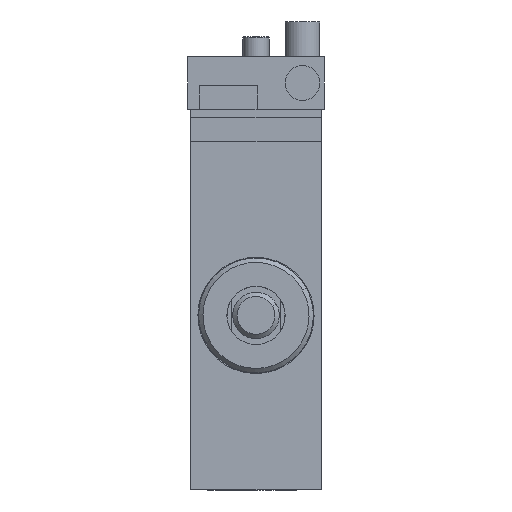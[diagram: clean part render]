
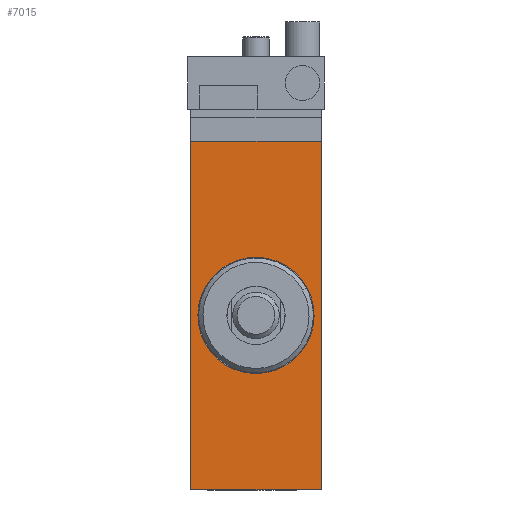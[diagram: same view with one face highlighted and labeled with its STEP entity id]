
A CAD part, left-side view. The second image highlights one B-rep face of the part: STEP entity #7015.
In plain terms, the highlighted planar face has unit normal (-1, 0, 0).
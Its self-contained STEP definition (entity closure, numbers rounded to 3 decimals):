
#7002=AXIS2_PLACEMENT_3D('Plane Axis2P3D',#6999,#7000,#7001) ;
#6885=CARTESIAN_POINT('Line Origine',(-267.,0.,60.)) ;
#6889=CARTESIAN_POINT('Vertex',(-267.,22.5,60.)) ;
#6891=CARTESIAN_POINT('Vertex',(-267.,-22.5,60.)) ;
#6925=CARTESIAN_POINT('Line Origine',(-267.,-22.5,0.)) ;
#6929=CARTESIAN_POINT('Vertex',(-267.,-22.5,-60.)) ;
#6956=CARTESIAN_POINT('Line Origine',(-267.,22.5,0.)) ;
#6960=CARTESIAN_POINT('Vertex',(-267.,22.5,-60.)) ;
#6999=CARTESIAN_POINT('Axis2P3D Location',(-267.,0.,0.)) ;
#7004=CARTESIAN_POINT('Line Origine',(-267.,0.,-60.)) ;
#6886=DIRECTION('Vector Direction',(0.,1.,0.)) ;
#6926=DIRECTION('Vector Direction',(0.,0.,1.)) ;
#6957=DIRECTION('Vector Direction',(0.,0.,-1.)) ;
#7000=DIRECTION('Axis2P3D Direction',(1.,0.,0.)) ;
#7001=DIRECTION('Axis2P3D XDirection',(0.,-1.,0.)) ;
#7005=DIRECTION('Vector Direction',(0.,-1.,0.)) ;
#6887=VECTOR('Line Direction',#6886,1.) ;
#6927=VECTOR('Line Direction',#6926,1.) ;
#6958=VECTOR('Line Direction',#6957,1.) ;
#7006=VECTOR('Line Direction',#7005,1.) ;
#7010=ORIENTED_EDGE('',*,*,#6962,.F.) ;
#7011=ORIENTED_EDGE('',*,*,#7008,.F.) ;
#7012=ORIENTED_EDGE('',*,*,#6931,.F.) ;
#7013=ORIENTED_EDGE('',*,*,#6893,.F.) ;
#7015=ADVANCED_FACE('*DIT1\\*DIT3\\SZKD_63_5_Z_A13_T12_070131_3D_xSET5_1.1\\Body.2 ( *SOL3 - wsp ZYLINDERTEIL -  -Non Smart-  )',(#7014),#7003,.F.) ;
#6893=EDGE_CURVE('',#6890,#6892,#6888,.F.) ;
#6931=EDGE_CURVE('',#6892,#6930,#6928,.F.) ;
#6962=EDGE_CURVE('',#6961,#6890,#6959,.F.) ;
#7008=EDGE_CURVE('',#6930,#6961,#7007,.F.) ;
#7009=EDGE_LOOP('',(#7010,#7011,#7012,#7013)) ;
#7014=FACE_OUTER_BOUND('',#7009,.T.) ;
#6888=LINE('Line',#6885,#6887) ;
#6928=LINE('Line',#6925,#6927) ;
#6959=LINE('Line',#6956,#6958) ;
#7007=LINE('Line',#7004,#7006) ;
#7003=PLANE('Plane',#7002) ;
#6890=VERTEX_POINT('',#6889) ;
#6892=VERTEX_POINT('',#6891) ;
#6930=VERTEX_POINT('',#6929) ;
#6961=VERTEX_POINT('',#6960) ;
